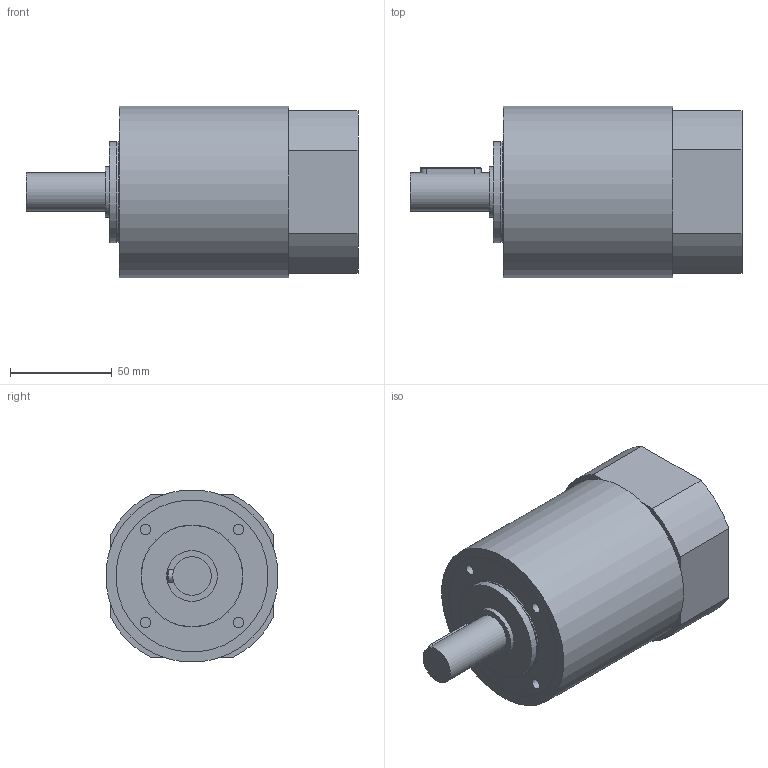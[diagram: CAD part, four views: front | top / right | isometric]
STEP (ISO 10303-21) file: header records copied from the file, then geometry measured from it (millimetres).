
FILE_DESCRIPTION(/* description */ (''),/* implementation_level */ '2;1');
FILE_NAME(/* name */ 'E00017964713MP040509093043_step214.stp',/* time_stamp */ '2009-05-04T09:33:57+02:00',/* author */ (''),/* organization */ (''),/* preprocessor_version */ 'ST-DEVELOPER v11',/* originating_system */ 'UGS - NX 5.0',/* authorisation */ '');
FILE_SCHEMA (('AUTOMOTIVE_DESIGN { 1 0 10303 214 0 1 1 1 }'));
Length unit declared in the file: millimetre
Products named in the file (1): E00017964713MP040509093043_M
Bounding box: 163.5 x 84.68 x 84.68 mm (x, y, z)
Volume: 861647.2 mm3; surface area: 112419.3 mm2
Topology: 8 solids, 8 shells, 100 faces, 214 edges, 141 vertices
Faces by surface type: plane 44, cylinder 40, cone 13, torus 3
Full cylindrical faces by diameter (mm): 3.432 x4, 5.188 x6, 6.2 x1, 6.5 x1, 10.5 x1, 13.75 x1, 14 x1, 19 x2, 25 x2, 47 x1, 50 x2, 63.9 x1, 67.96 x1, 68 x1, 70.9 x1, 74.95 x1, 75 x2, 85 x1
Entity records: 2496 total; most frequent: CARTESIAN_POINT 470, DIRECTION 431, ORIENTED_EDGE 296, AXIS2_PLACEMENT_3D 186, EDGE_LOOP 163, EDGE_CURVE 148, FACE_BOUND 132, VERTEX_POINT 125
